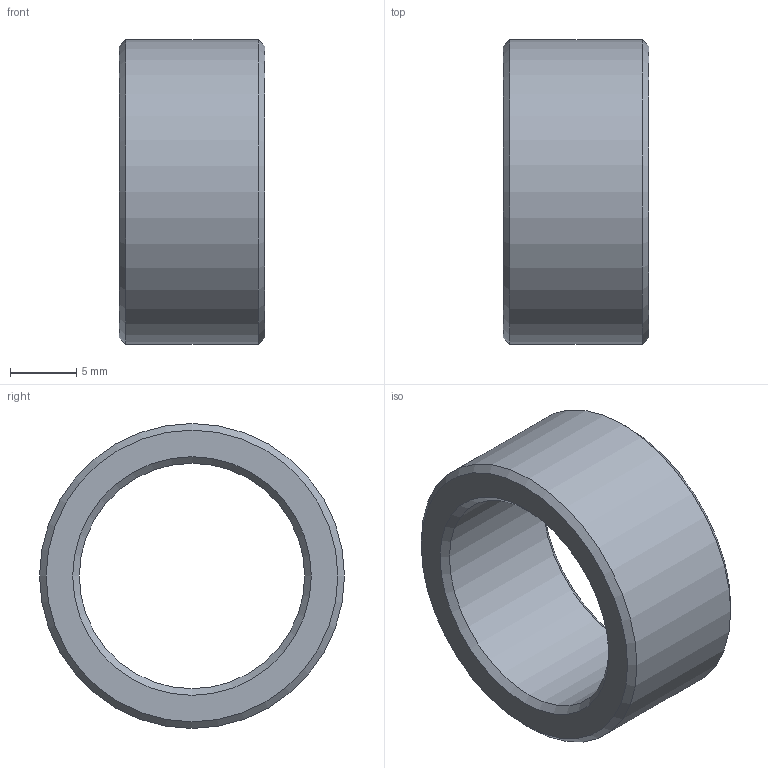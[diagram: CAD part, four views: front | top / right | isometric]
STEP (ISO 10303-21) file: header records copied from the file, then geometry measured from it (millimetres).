
FILE_DESCRIPTION(/* description */ (''),/* implementation_level */ '2;1');
FILE_NAME(/* name */ '',/* time_stamp */ '2025-03-10T16:22:47+09:00',/* author */ ('jhkim'),/* organization */ (''),/* preprocessor_version */ 'ST-DEVELOPER v20',/* originating_system */ 'Autodesk Inventor 2025',/* authorisation */ '');
FILE_SCHEMA (('AUTOMOTIVE_DESIGN { 1 0 10303 214 3 1 1 }'));
Length unit declared in the file: millimetre
Products named in the file (1): 칼라
Bounding box: 11 x 23 x 23 mm (x, y, z)
Volume: 2042 mm3; surface area: 1685.7 mm2
Topology: 1 solids, 1 shells, 8 faces, 14 edges, 8 vertices
Faces by surface type: cone 4, cylinder 2, plane 2
Full cylindrical faces by diameter (mm): 17 x1, 23 x1
Entity records: 241 total; most frequent: DIRECTION 40, CARTESIAN_POINT 31, ORIENTED_EDGE 28, AXIS2_PLACEMENT_3D 17, EDGE_CURVE 14, EDGE_LOOP 10, FACE_OUTER_BOUND 8, CIRCLE 8
